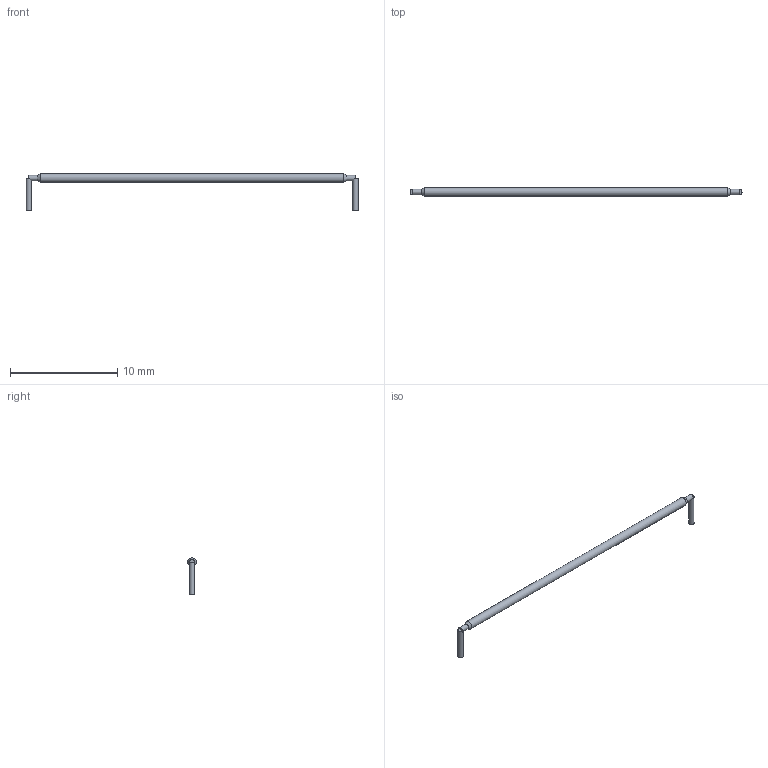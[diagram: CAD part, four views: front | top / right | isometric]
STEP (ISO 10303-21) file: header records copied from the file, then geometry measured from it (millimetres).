
FILE_DESCRIPTION(('FreeCAD Model'),'2;1');
FILE_NAME('Open CASCADE Shape Model','2026-04-07T19:07:43',('FreeCAD'),( 'FreeCAD'),'Open CASCADE STEP processor 7.8','FreeCAD','Unknown');
FILE_SCHEMA(('AUTOMOTIVE_DESIGN { 1 0 10303 214 1 1 1 1 }'));
Length unit declared in the file: millimetre
Products named in the file (1): Open CASCADE STEP translator 7.8 12
Bounding box: 30.98 x 0.8 x 3.4 mm (x, y, z)
Volume: 21.6 mm3; surface area: 131.3 mm2
Topology: 4 solids, 4 shells, 14 faces, 16 edges, 10 vertices
Faces by surface type: plane 8, cylinder 4, cone 2
Full cylindrical faces by diameter (mm): 0.5 x3, 0.8 x1
Entity records: 287 total; most frequent: DIRECTION 56, CARTESIAN_POINT 41, ORIENTED_EDGE 32, AXIS2_PLACEMENT_3D 25, EDGE_CURVE 16, ADVANCED_FACE 14, FACE_BOUND 14, EDGE_LOOP 14
